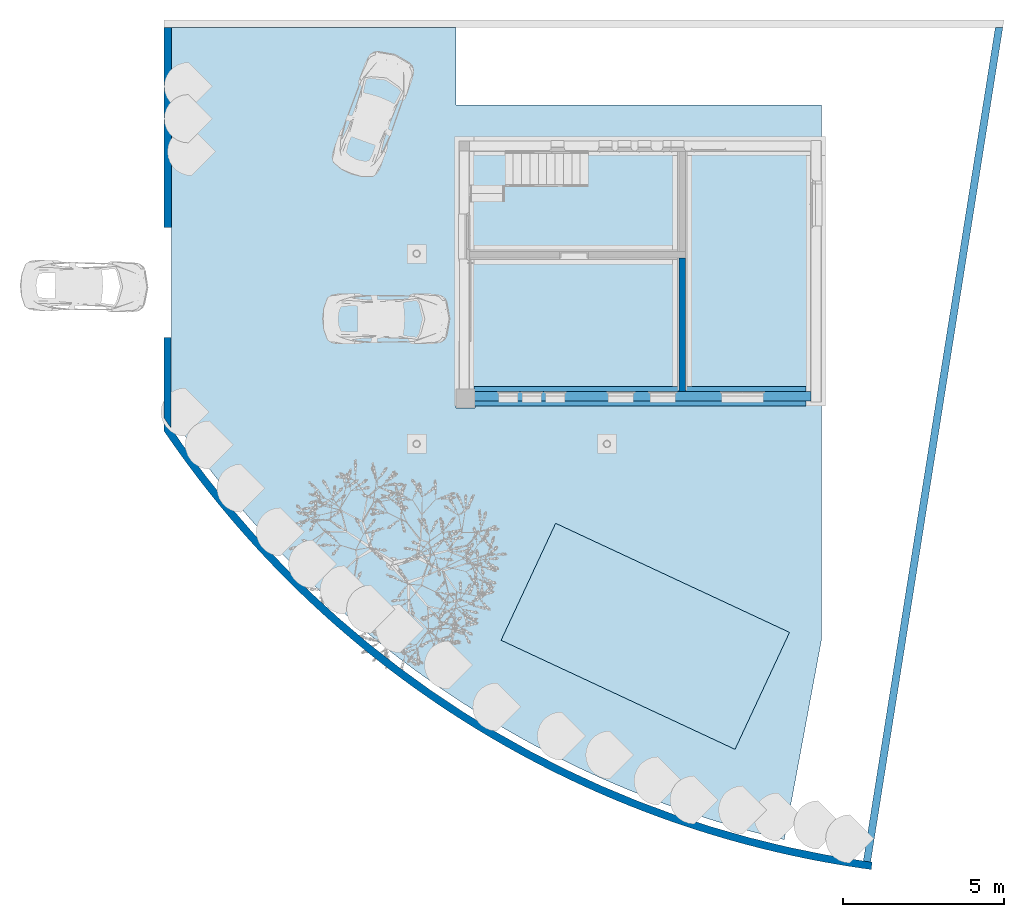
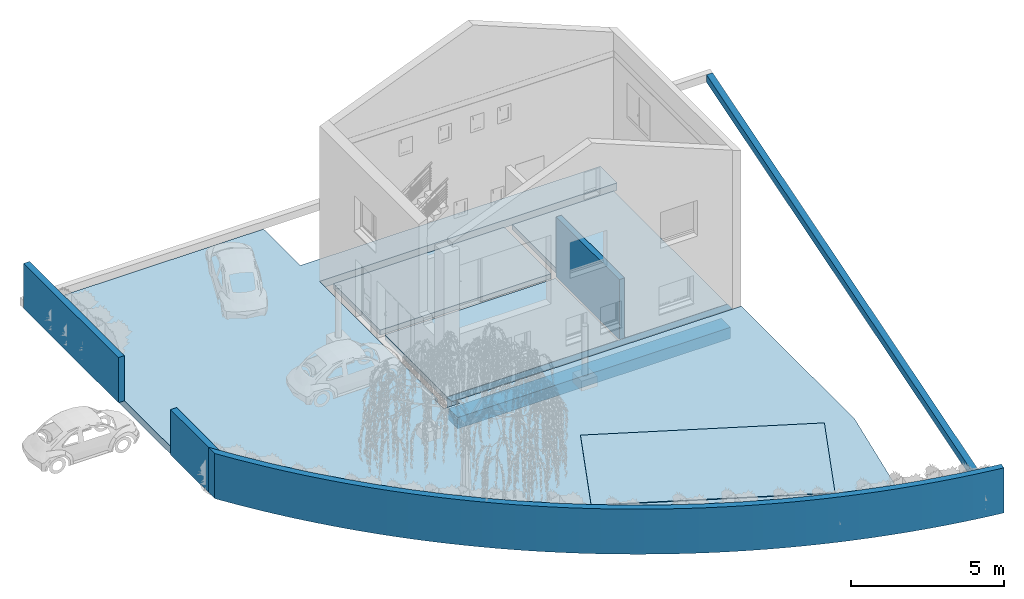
# One storey, part 2 of 20: 7 walls, 5 slabs.
"""IFC2X3 building model written with IfcOpenShell, lengths in metres."""

from ifc_helpers import new_model, entity, si_unit, converted_unit, derived_unit, direction, frame, frame_2d, origin, place, context, subcontext, project, spatial, polyline, circle_curve, parameter, trimmed, segment, composite_curve, rectangle, outline, extrude, material, layer, layer_set, layer_usage, type_object, element, save


model = new_model("IFC2X3")

# Units and contexts
model_context = context("Model", 3, precision=1e-05, world=origin(), true_north=direction((6.12303176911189e-17, 1.0)))
body_context = subcontext(model_context, "Body", "Model", "MODEL_VIEW")
ifc_project = project(units=[si_unit("LENGTHUNIT", "METRE"), si_unit("AREAUNIT", "SQUARE_METRE"), si_unit("VOLUMEUNIT", "CUBIC_METRE"), converted_unit("PLANEANGLEUNIT", "DEGREE", entity("IfcRatioMeasure", 0.0174532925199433), si_unit("PLANEANGLEUNIT", "RADIAN"), dimensions=[0, 0, 0, 0, 0, 0, 0]), si_unit("MASSUNIT", "GRAM", prefix="KILO"), derived_unit("MASSDENSITYUNIT", [(si_unit("MASSUNIT", "GRAM", prefix="KILO"), 1), (si_unit("LENGTHUNIT", "METRE"), -3)]), derived_unit("MOMENTOFINERTIAUNIT", [(si_unit("LENGTHUNIT", "METRE"), 4)]), si_unit("TIMEUNIT", "SECOND"), si_unit("FREQUENCYUNIT", "HERTZ"), si_unit("THERMODYNAMICTEMPERATUREUNIT", "DEGREE_CELSIUS"), derived_unit("THERMALTRANSMITTANCEUNIT", [(si_unit("MASSUNIT", "GRAM", prefix="KILO"), 1), (si_unit("THERMODYNAMICTEMPERATUREUNIT", "KELVIN"), -1), (si_unit("TIMEUNIT", "SECOND"), -3)]), derived_unit("VOLUMETRICFLOWRATEUNIT", [(si_unit("LENGTHUNIT", "METRE"), 3), (si_unit("TIMEUNIT", "SECOND"), -1)]), si_unit("ELECTRICCURRENTUNIT", "AMPERE"), si_unit("ELECTRICVOLTAGEUNIT", "VOLT"), si_unit("POWERUNIT", "WATT"), si_unit("FORCEUNIT", "NEWTON", prefix="KILO"), si_unit("ILLUMINANCEUNIT", "LUX"), si_unit("LUMINOUSFLUXUNIT", "LUMEN"), si_unit("LUMINOUSINTENSITYUNIT", "CANDELA"), derived_unit("USERDEFINED", [(si_unit("MASSUNIT", "GRAM", prefix="KILO"), -1), (si_unit("LENGTHUNIT", "METRE"), -2), (si_unit("TIMEUNIT", "SECOND"), 3), (si_unit("LUMINOUSFLUXUNIT", "LUMEN"), 1)]), derived_unit("LINEARVELOCITYUNIT", [(si_unit("LENGTHUNIT", "METRE"), 1), (si_unit("TIMEUNIT", "SECOND"), -1)]), si_unit("PRESSUREUNIT", "PASCAL"), derived_unit("USERDEFINED", [(si_unit("LENGTHUNIT", "METRE"), -2), (si_unit("MASSUNIT", "GRAM", prefix="KILO"), 1), (si_unit("TIMEUNIT", "SECOND"), -2)]), derived_unit("LINEARFORCEUNIT", [(si_unit("MASSUNIT", "GRAM", prefix="KILO"), 1), (si_unit("LENGTHUNIT", "METRE"), 1), (si_unit("TIMEUNIT", "SECOND"), -2), (si_unit("LENGTHUNIT", "METRE"), -1)]), derived_unit("PLANARFORCEUNIT", [(si_unit("MASSUNIT", "GRAM", prefix="KILO"), 1), (si_unit("LENGTHUNIT", "METRE"), 1), (si_unit("TIMEUNIT", "SECOND"), -2), (si_unit("LENGTHUNIT", "METRE"), -2)])], contexts=[model_context])

# Site, building, storey
site_placement = place(None, origin())
site = spatial("IfcSite", under=ifc_project, at=site_placement, Name="Surface", CompositionType="ELEMENT")
building_placement = place(site_placement, origin())
building = spatial("IfcBuilding", under=site, at=building_placement, CompositionType="ELEMENT")
storey_placement = place(building_placement, origin())
storey = spatial("IfcBuildingStorey", under=building, at=storey_placement, Name="Niveau rdc", CompositionType="ELEMENT", Elevation=-1.94916083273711e-14)

# Slabs
ifc_material_1 = material(Name="eau")
ifc_layer_1 = layer(ifc_material_1, 0.025)
ifc_layer_set_1 = layer_set([ifc_layer_1], Name="Sol:piscine")
ifc_layer_usage_1 = layer_usage(ifc_layer_set_1, "AXIS3", "POSITIVE", 0.0)
slab_type_1 = type_object("IfcSlabType", Name="Sol:piscine", PredefinedType="FLOOR", material=ifc_layer_set_1)
slab_1_placement = place(storey_placement, origin())
element("IfcSlab", 1, at=slab_1_placement, inside=storey, type_object=slab_type_1, material=ifc_layer_usage_1, Name="Sol:piscine", ObjectType="Sol:piscine", PredefinedType="FLOOR", context=body_context, shape_type="SweptSolid", body=[
    extrude(rectangle(XDim=7.99999999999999, YDim=4.0, at=frame_2d((-4.44089209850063e-16, -1.55431223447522e-15), x_axis=(1.0, 0.0))), frame((7.32908762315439, -8.01981908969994, 0.02), z_axis=(0.0, 0.0, -1.0), x_axis=(0.906307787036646, -0.422618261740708, 0.0)), (0.0, 0.0, 1.0), 0.025),
])
ifc_material_2 = material(Name="Maçonnerie - Béton pavé")
ifc_layer_2 = layer(ifc_material_2, 0.3)
ifc_layer_set_2 = layer_set([ifc_layer_2], Name="Terre-plein:Terre-plein Béton - 300 mm")
ifc_layer_usage_2 = layer_usage(ifc_layer_set_2, "AXIS3", "POSITIVE", 0.0)
slab_type_2 = type_object("IfcSlabType", Name="Terre-plein:Terre-plein Béton - 300 mm", PredefinedType="FLOOR", material=ifc_layer_set_2)
slab_2_placement = place(storey_placement, origin())
element("IfcSlab", 2, at=slab_2_placement, inside=storey, type_object=slab_type_2, material=ifc_layer_usage_2, Name="Terre-plein:Terre-plein Béton - 300 mm", ObjectType="Terre-plein:Terre-plein Béton - 300 mm", PredefinedType="FLOOR", context=body_context, shape_type="SweptSolid", body=[
    extrude(outline(composite_curve([segment(polyline([(-9.83820271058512, -9.42456467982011), (-2.43820271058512, -9.42456467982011)]), True, "CONTINUOUS"), segment(polyline([(-2.43820271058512, -9.42456467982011), (-2.43820271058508, 1.30543532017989)]), True, "CONTINUOUS"), segment(polyline([(-2.43820271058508, 1.30543532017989), (-2.62820271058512, 1.30543532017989)]), True, "CONTINUOUS"), segment(polyline([(-2.62820271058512, 1.30543532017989), (-2.62820271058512, 1.9004353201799)]), True, "CONTINUOUS"), segment(polyline([(-2.62820271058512, 1.9004353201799), (-2.02820271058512, 1.9004353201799)]), True, "CONTINUOUS"), segment(polyline([(-2.02820271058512, 1.9004353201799), (-2.02820271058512, 1.8054353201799)]), True, "CONTINUOUS"), segment(polyline([(-2.02820271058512, 1.8054353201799), (5.67179728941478, 1.8054353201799)]), True, "CONTINUOUS"), segment(polyline([(5.67179728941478, 1.8054353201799), (5.67179728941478, -9.42456467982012)]), True, "CONTINUOUS"), segment(polyline([(5.67179728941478, -9.42456467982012), (6.77179728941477, -9.42456467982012)]), True, "CONTINUOUS"), segment(polyline([(6.77179728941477, -9.42456467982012), (6.77179728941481, 1.89543532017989)]), True, "CONTINUOUS"), segment(polyline([(6.77179728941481, 1.89543532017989), (9.17179728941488, 1.89543532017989)]), True, "CONTINUOUS"), segment(polyline([(9.17179728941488, 1.89543532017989), (9.17179728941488, 10.7204353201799)]), True, "CONTINUOUS"), segment(polyline([(9.17179728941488, 10.7204353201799), (-0.325287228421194, 10.7204353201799)]), True, "CONTINUOUS"), segment(polyline([(-0.325287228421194, 10.7204353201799), (-2.87268696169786, 10.7204353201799)]), True, "CONTINUOUS"), segment(trimmed(circle_curve(frame_2d((14.6266050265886, -15.4147555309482), x_axis=(0.0, -1.0)), 31.4527172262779), [parameter(213.805005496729)], [parameter(256.882369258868)], True, "PARAMETER"), True, "CONTINUOUS"), segment(polyline([(-16.0053905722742, -8.27652980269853), (-9.83820271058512, -9.42456467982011)]), True, "CONTINUOUS")], self_intersect=False)), frame((3.3598313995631, 1.68246081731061, -0.3), z_axis=(0.0, 0.0, 1.0), x_axis=(0.0, 1.0, 0.0)), (0.0, 0.0, 1.0), 0.3),
])
ifc_material_3 = material(Name="Maçonnerie - Béton")
ifc_layer_3 = layer(ifc_material_3, 0.2)
ifc_layer_set_3 = layer_set([ifc_layer_3], Name="Sol:Dalle en béton - 20")
ifc_layer_usage_3 = layer_usage(ifc_layer_set_3, "AXIS3", "POSITIVE", 0.0)
slab_type_3 = type_object("IfcSlabType", Name="Sol:Dalle en béton - 20", PredefinedType="FLOOR")
slab_3_placement = place(storey_placement, frame((1.8843960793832, -0.425741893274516, -0.2)))
element("IfcSlab", 3, at=slab_3_placement, inside=storey, type_object=slab_type_3, material=ifc_layer_usage_3, Name="Sol:Dalle en béton - 20", ObjectType="Sol:Dalle en béton - 20", PredefinedType="FLOOR", context=body_context, shape_type="SweptSolid", body=[
    extrude(rectangle(XDim=3.05500000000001, YDim=6.44257308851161, at=frame_2d((2.0637134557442, 2.18999999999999), x_axis=(0.0, -1.0))), frame((5.28500000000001, 3.7175, 0.2), z_axis=(0.0, 0.0, -1.0), x_axis=(-1.0, 0.0, 0.0)), (0.0, 0.0, 1.0), 0.2),
])
slab_type_4 = type_object("IfcSlabType", Name="Sol:Dalle en béton - 20", PredefinedType="FLOOR")
slab_4_placement = place(storey_placement, frame((1.8843960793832, -0.425741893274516, -0.2)))
element("IfcSlab", 4, at=slab_4_placement, inside=storey, type_object=slab_type_4, material=ifc_layer_usage_3, Name="Sol:Dalle en béton - 20:2", ObjectType="Sol:Dalle en béton - 20", PredefinedType="FLOOR", context=body_context, shape_type="SweptSolid", body=[
    extrude(rectangle(XDim=7.435, YDim=3.82742691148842, at=frame_2d((-3.3712865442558, 0.0), x_axis=(0.0, -1.0))), frame((5.28500000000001, 3.7175, 0.2), z_axis=(0.0, 0.0, -1.0), x_axis=(-1.0, 0.0, 0.0)), (0.0, 0.0, 1.0), 0.2),
])
slab_type_5 = type_object("IfcSlabType", Name="Sol:Dalle en béton - 20", PredefinedType="FLOOR", material=ifc_layer_set_3)
slab_5_placement = place(storey_placement, frame((1.8843960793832, -0.425741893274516, -0.2)))
element("IfcSlab", 5, at=slab_5_placement, inside=storey, type_object=slab_type_5, material=ifc_layer_usage_3, Name="Sol:Dalle en béton - 20:3", ObjectType="Sol:Dalle en béton - 20", PredefinedType="FLOOR", context=body_context, shape_type="SweptSolid", body=[
    extrude(rectangle(XDim=4.08000000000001, YDim=6.44257308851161, at=frame_2d((2.06371345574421, -1.6775), x_axis=(0.0, -1.0))), frame((5.28500000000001, 3.7175, 0.2), z_axis=(0.0, 0.0, -1.0), x_axis=(-1.0, 0.0, 0.0)), (0.0, 0.0, 1.0), 0.2),
])

# Walls
ifc_material_4 = material(Name="Maçonnerie - Isolant")
ifc_layer_4 = layer(ifc_material_4, 0.015)
ifc_material_5 = material(Name="Blocs béton manufacturés")
ifc_layer_5 = layer(ifc_material_5, 0.2)
ifc_layer_6 = layer(ifc_material_4, 0.015)
ifc_layer_set_4 = layer_set([ifc_layer_4, ifc_layer_5, ifc_layer_6], Name="Mur de base:Ext. Parpaing 20")
ifc_layer_usage_4 = layer_usage(ifc_layer_set_4, "AXIS2", "POSITIVE", -0.115)
wall_type_1 = type_object("IfcWallType", Name="Mur de base:Ext. Parpaing 20", PredefinedType="STANDARD", material=ifc_layer_set_4)
wall_1_placement = place(storey_placement, frame((-7.6914943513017, -1.29696399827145, 0.0), z_axis=(0.0, 0.0, 1.0), x_axis=(0.0, -1.0, 0.0)))
element("IfcWallStandardCase", 6, at=wall_1_placement, inside=storey, type_object=wall_type_1, material=ifc_layer_usage_4, Name="Mur de base:Ext. Parpaing 20", ObjectType="Mur de base:Ext. Parpaing 20", context=body_context, shape_type="SweptSolid", body=[
    extrude(outline(composite_curve([segment(polyline([(13.7253806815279, 22.0536997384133), (13.6863804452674, 21.7767616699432)]), True, "CONTINUOUS"), segment(polyline([(13.6863804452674, 21.7767616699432), (13.4891448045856, 20.5821178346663)]), True, "CONTINUOUS"), segment(polyline([(13.4891448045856, 20.5821178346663), (13.246027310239, 19.3959448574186)]), True, "CONTINUOUS"), segment(polyline([(13.246027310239, 19.3959448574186), (12.9573912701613, 18.220019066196)]), True, "CONTINUOUS"), segment(polyline([(12.9573912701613, 18.220019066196), (12.6236652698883, 17.0560865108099)]), True, "CONTINUOUS"), segment(polyline([(12.6236652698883, 17.0560865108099), (12.2453448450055, 15.9058754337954)]), True, "CONTINUOUS"), segment(polyline([(12.2453448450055, 15.9058754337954), (11.8229917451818, 14.7710937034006)]), True, "CONTINUOUS"), segment(polyline([(11.8229917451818, 14.7710937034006), (11.357233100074, 13.6534262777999)]), True, "CONTINUOUS"), segment(polyline([(11.357233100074, 13.6534262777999), (10.848760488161, 12.5545327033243)]), True, "CONTINUOUS"), segment(polyline([(10.848760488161, 12.5545327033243), (10.2983289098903, 11.4760446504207)]), True, "CONTINUOUS"), segment(polyline([(10.2983289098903, 11.4760446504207), (9.70675566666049, 10.4195634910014)]), True, "CONTINUOUS"), segment(polyline([(9.70675566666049, 10.4195634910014), (9.07491914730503, 9.38665792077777)]), True, "CONTINUOUS"), segment(polyline([(9.07491914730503, 9.38665792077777), (8.40375752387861, 8.37886163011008)]), True, "CONTINUOUS"), segment(polyline([(8.40375752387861, 8.37886163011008), (7.69426735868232, 7.39767102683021)]), True, "CONTINUOUS"), segment(polyline([(7.69426735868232, 7.39767102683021), (6.94750212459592, 6.44454301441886)]), True, "CONTINUOUS"), segment(polyline([(6.94750212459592, 6.44454301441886), (6.16457064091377, 5.52089282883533)]), True, "CONTINUOUS"), segment(polyline([(6.16457064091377, 5.52089282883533), (5.34663542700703, 4.62809193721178)]), True, "CONTINUOUS"), segment(polyline([(5.34663542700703, 4.62809193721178), (4.49491097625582, 3.76746600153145)]), True, "CONTINUOUS"), segment(polyline([(4.49491097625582, 3.76746600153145), (3.61066195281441, 2.94029291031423)]), True, "CONTINUOUS"), segment(polyline([(3.61066195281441, 2.94029291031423), (2.69520131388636, 2.14780088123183)]), True, "CONTINUOUS"), segment(polyline([(2.69520131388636, 2.14780088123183), (1.74988836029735, 1.3911666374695)]), True, "CONTINUOUS"), segment(polyline([(1.74988836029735, 1.3911666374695), (0.776126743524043, 0.67151367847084)]), True, "CONTINUOUS"), segment(polyline([(0.776126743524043, 0.67151367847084), (-0.0634824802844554, 0.0958904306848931)]), True, "CONTINUOUS"), segment(polyline([(-0.0634824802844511, 0.0958904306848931), (0.349770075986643, 0.0958904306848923)]), True, "CONTINUOUS"), segment(trimmed(circle_curve(frame_2d((-17.4095001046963, 26.2970894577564), x_axis=(1.0, 0.0)), 31.6527172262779), [parameter(304.12956557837)], [parameter(352.238945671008)], True, "PARAMETER"), True, "CONTINUOUS"), segment(polyline([(13.9532738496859, 22.0226400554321), (13.7253806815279, 22.0536997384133)]), True, "CONTINUOUS")], self_intersect=False)), origin(), (0.0, 0.0, 1.0), 1.8),
])
ifc_layer_usage_5 = layer_usage(ifc_layer_set_4, "AXIS2", "NEGATIVE", 0.115)
wall_2_placement = place(storey_placement, frame((14.198866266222, -15.0013366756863, 0.0), z_axis=(0.0, 0.0, 1.0), x_axis=(0.156434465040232, 0.987688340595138, 0.0)))
element("IfcWallStandardCase", 7, at=wall_2_placement, inside=storey, type_object=wall_type_1, material=ifc_layer_usage_5, Name="Mur de base:Ext. Parpaing 20", ObjectType="Mur de base:Ext. Parpaing 20", context=body_context, shape_type="SweptSolid", body=[
    extrude(outline(composite_curve([segment(polyline([(26.1961022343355, -0.114999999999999), (26.1596738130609, 0.114999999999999)]), True, "CONTINUOUS"), segment(polyline([(26.1596738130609, 0.114999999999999), (0.0, 0.115)]), True, "CONTINUOUS"), segment(trimmed(circle_curve(frame_2d((31.4201736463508, 0.514807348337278), x_axis=(-0.987688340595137, -0.156434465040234)), 31.4227172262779), [parameter(351.729023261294)], [parameter(352.148459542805)], True, "PARAMETER"), True, "CONTINUOUS"), segment(polyline([(0.00376868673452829, -0.115), (26.1961022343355, -0.115000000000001)]), True, "CONTINUOUS")], self_intersect=False)), origin(), (0.0, 0.0, 1.0), 0.3),
])
ifc_layer_usage_6 = layer_usage(ifc_layer_set_4, "AXIS2", "POSITIVE", -0.115)
wall_3_placement = place(storey_placement, frame((-7.47560392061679, 10.8542581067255, 0.0), z_axis=(0.0, 0.0, 1.0), x_axis=(0.0, -1.0, 0.0)))
element("IfcWallStandardCase", 8, at=wall_3_placement, inside=storey, type_object=wall_type_1, material=ifc_layer_usage_6, Name="Mur de base:Ext. Parpaing 20", ObjectType="Mur de base:Ext. Parpaing 20", context=body_context, shape_type="SweptSolid", body=[
    extrude(rectangle(XDim=6.2, YDim=0.23, at=frame_2d((3.1, -4.44089209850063e-16), x_axis=(-1.0, 0.0))), origin(), (0.0, 0.0, 1.0), 1.8),
])
ifc_layer_usage_7 = layer_usage(ifc_layer_set_4, "AXIS2", "POSITIVE", -0.115)
wall_4_placement = place(storey_placement, frame((-7.4806039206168, 1.23711231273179, 0.0), z_axis=(0.0, 0.0, 1.0), x_axis=(0.0, -1.0, 0.0)))
element("IfcWallStandardCase", 9, at=wall_4_placement, inside=storey, type_object=wall_type_1, material=ifc_layer_usage_7, Name="Mur de base:Ext. Parpaing 20", ObjectType="Mur de base:Ext. Parpaing 20", context=body_context, shape_type="SweptSolid", body=[
    extrude(outline(composite_curve([segment(trimmed(circle_curve(frame_2d((-14.8754237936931, 26.0861990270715), x_axis=(1.0, 0.0)), 31.4227172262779), [parameter(303.505811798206)], [parameter(304.258088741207)], True, "PARAMETER"), True, "CONTINUOUS"), segment(polyline([(2.81310296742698, 0.115), (0.0, 0.115)]), True, "CONTINUOUS"), segment(polyline([(0.0, 0.115), (0.0, -0.115)]), True, "CONTINUOUS"), segment(polyline([(0.0, -0.115), (2.4705938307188, -0.115)]), True, "CONTINUOUS")], self_intersect=False)), origin(), (0.0, 0.0, 1.0), 1.8),
])
ifc_material_6 = material(Name="Maçonnerie - Voile BA")
ifc_layer_7 = layer(ifc_material_6, 0.3)
ifc_layer_set_5 = layer_set([ifc_layer_7], Name="Mur de base:Ext. Voile 30")
ifc_layer_usage_8 = layer_usage(ifc_layer_set_5, "AXIS2", "NEGATIVE", 0.15)
wall_type_2 = type_object("IfcWallType", Name="Mur de base:Ext. Voile 30", PredefinedType="STANDARD", material=ifc_layer_set_5)
wall_5_placement = place(storey_placement, frame((1.8643960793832, -0.580741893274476, -0.6)))
element("IfcWallStandardCase", 10, at=wall_5_placement, inside=storey, type_object=wall_type_2, material=ifc_layer_usage_8, Name="Mur de base:Ext. Voile 30", ObjectType="Mur de base:Ext. Voile 30", context=body_context, shape_type="SweptSolid", body=[
    extrude(rectangle(XDim=10.605, YDim=0.3, at=frame_2d((5.3025, -2.77555756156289e-17), x_axis=(-1.0, 0.0))), origin(), (0.0, 0.0, 1.0), 0.6),
])
ifc_layer_8 = layer(ifc_material_6, 0.6)
ifc_layer_set_6 = layer_set([ifc_layer_8], Name="Mur de base:fondations 60*45")
ifc_layer_usage_9 = layer_usage(ifc_layer_set_6, "AXIS2", "NEGATIVE", 0.3)
wall_type_3 = type_object("IfcWallType", Name="Mur de base:fondations 60*45", PredefinedType="STANDARD", material=ifc_layer_set_6)
wall_6_placement = place(storey_placement, frame((12.3143960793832, -0.58074189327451, -1.05), z_axis=(0.0, 0.0, 1.0), x_axis=(-1.0, 0.0, 0.0)))
element("IfcWallStandardCase", 11, at=wall_6_placement, inside=storey, type_object=wall_type_3, material=ifc_layer_usage_9, Name="Mur de base:fondations 60*45", ObjectType="Mur de base:fondations 60*45", context=body_context, shape_type="SweptSolid", body=[
    extrude(rectangle(XDim=10.3, YDim=0.6, at=frame_2d((5.15, -2.77555756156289e-17), x_axis=(-1.0, 0.0))), origin(), (0.0, 0.0, 1.0), 0.45),
])
ifc_material_7 = material(Name="Brique, commune")
ifc_layer_9 = layer(ifc_material_7, 0.2)
ifc_layer_set_7 = layer_set([ifc_layer_9], Name="Mur de base:Ext. Brique 22")
ifc_layer_usage_10 = layer_usage(ifc_layer_set_7, "AXIS2", "NEGATIVE", 0.1)
wall_type_4 = type_object("IfcWallType", Name="Mur de base:Ext. Brique 22", PredefinedType="STANDARD", material=ifc_layer_set_7)
wall_7_placement = place(storey_placement, frame((8.4769691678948, 3.70425810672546, 0.0), z_axis=(0.0, 0.0, 1.0), x_axis=(0.0, -1.0, 0.0)))
element("IfcWallStandardCase", 12, at=wall_7_placement, inside=storey, type_object=wall_type_4, material=ifc_layer_usage_10, Name="Mur de base:Ext. Brique 22", ObjectType="Mur de base:Ext. Brique 22", context=body_context, shape_type="SweptSolid", body=[
    extrude(rectangle(XDim=4.12999999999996, YDim=0.2, at=frame_2d((2.06499999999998, -7.63278329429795e-17), x_axis=(-1.0, 0.0))), origin(), (0.0, 0.0, 1.0), 2.4),
])

save(model, "model.ifc")
